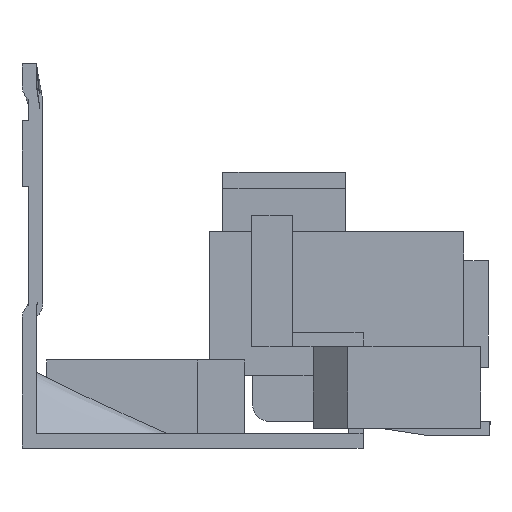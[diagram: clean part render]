
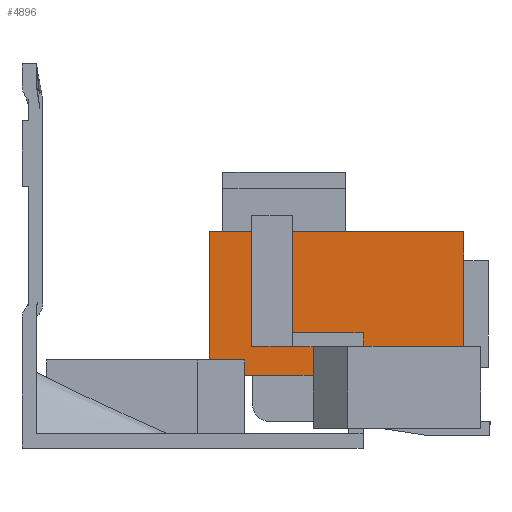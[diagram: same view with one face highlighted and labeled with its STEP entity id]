
A CAD part, front view. The second image highlights one B-rep face of the part: STEP entity #4896.
In plain terms, the highlighted planar face has unit normal (0, -1, 0).
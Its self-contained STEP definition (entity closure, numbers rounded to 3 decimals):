
#692 = FACE_OUTER_BOUND ( 'NONE', #2629, .T. ) ;
#1021 = AXIS2_PLACEMENT_3D ( 'NONE', #2270, #2271, #2272 ) ;
#1183 = CARTESIAN_POINT ( 'NONE',  ( 27.15, -20., -27.058 ) ) ;
#1184 = DIRECTION ( 'NONE',  ( 0., 0., 1. ) ) ;
#1185 = CARTESIAN_POINT ( 'NONE',  ( 49.9, -20., -25.181 ) ) ;
#1186 = DIRECTION ( 'NONE',  ( -1., 0., 0. ) ) ;
#1187 = CARTESIAN_POINT ( 'NONE',  ( 22.9, -20., -27.058 ) ) ;
#1188 = DIRECTION ( 'NONE',  ( 0., 0., 1. ) ) ;
#1189 = CARTESIAN_POINT ( 'NONE',  ( 41.6, -20., -21.831 ) ) ;
#1190 = DIRECTION ( 'NONE',  ( 1., 0., 0. ) ) ;
#1191 = CARTESIAN_POINT ( 'NONE',  ( 32., -20., -21.831 ) ) ;
#1192 = DIRECTION ( 'NONE',  ( 0., 0., 1. ) ) ;
#1193 = CARTESIAN_POINT ( 'NONE',  ( 32., -20., -23.581 ) ) ;
#1194 = DIRECTION ( 'NONE',  ( -1., 0., 0. ) ) ;
#1195 = CARTESIAN_POINT ( 'NONE',  ( 35.5, -20., -27.058 ) ) ;
#1196 = DIRECTION ( 'NONE',  ( 0., 0., -1. ) ) ;
#1197 = CARTESIAN_POINT ( 'NONE',  ( 49.9, -20., -27.058 ) ) ;
#1198 = DIRECTION ( 'NONE',  ( -1., 0., 0. ) ) ;
#1211 = CARTESIAN_POINT ( 'NONE',  ( 41.6, -20., -35.931 ) ) ;
#1212 = DIRECTION ( 'NONE',  ( 0., 0., -1. ) ) ;
#1812 = CARTESIAN_POINT ( 'NONE',  ( 32., -20., -23.581 ) ) ;
#1813 = CARTESIAN_POINT ( 'NONE',  ( 35.5, -20., -27.058 ) ) ;
#1814 = CARTESIAN_POINT ( 'NONE',  ( 27.15, -20., -27.058 ) ) ;
#1815 = CARTESIAN_POINT ( 'NONE',  ( 35.5, -20., -23.581 ) ) ;
#1824 = CARTESIAN_POINT ( 'NONE',  ( 41.6, -20., -21.831 ) ) ;
#1826 = CARTESIAN_POINT ( 'NONE',  ( 53.9, -20., -23.531 ) ) ;
#1828 = CARTESIAN_POINT ( 'NONE',  ( 41.6, -20., -23.531 ) ) ;
#1842 = CARTESIAN_POINT ( 'NONE',  ( 32., -20., -21.831 ) ) ;
#1891 = CARTESIAN_POINT ( 'NONE',  ( 53.9, -20., -9.558 ) ) ;
#1894 = CARTESIAN_POINT ( 'NONE',  ( 22.9, -20., -9.558 ) ) ;
#1906 = CARTESIAN_POINT ( 'NONE',  ( 22.9, -20., -25.181 ) ) ;
#1919 = CARTESIAN_POINT ( 'NONE',  ( 27.15, -20., -25.181 ) ) ;
#2269 = PLANE ( 'NONE',  #1021 ) ;
#2270 = CARTESIAN_POINT ( 'NONE',  ( 49.9, -20., -27.058 ) ) ;
#2271 = DIRECTION ( 'NONE',  ( 0., 1., 0. ) ) ;
#2272 = DIRECTION ( 'NONE',  ( 1., 0., 0. ) ) ;
#2419 = ORIENTED_EDGE ( 'NONE', *, *, #3859, .F. ) ;
#2420 = ORIENTED_EDGE ( 'NONE', *, *, #3860, .F. ) ;
#2421 = ORIENTED_EDGE ( 'NONE', *, *, #3652, .F. ) ;
#2422 = ORIENTED_EDGE ( 'NONE', *, *, #3641, .F. ) ;
#2423 = ORIENTED_EDGE ( 'NONE', *, *, #3634, .T. ) ;
#2424 = ORIENTED_EDGE ( 'NONE', *, *, #3872, .T. ) ;
#2425 = ORIENTED_EDGE ( 'NONE', *, *, #3861, .T. ) ;
#2426 = ORIENTED_EDGE ( 'NONE', *, *, #3862, .T. ) ;
#2427 = ORIENTED_EDGE ( 'NONE', *, *, #3863, .T. ) ;
#2428 = ORIENTED_EDGE ( 'NONE', *, *, #3864, .F. ) ;
#2429 = ORIENTED_EDGE ( 'NONE', *, *, #3865, .F. ) ;
#2629 = EDGE_LOOP ( 'NONE', ( #2429, #2428, #2427, #2426, #2425, #2424, #2423, #2422, #2421, #2420, #2419, #2986 ) ) ;
#2986 = ORIENTED_EDGE ( 'NONE', *, *, #3858, .F. ) ;
#2995 = LINE ( 'NONE', #4403, #2997 ) ;
#2997 = VECTOR ( 'NONE', #4404, 1000. ) ;
#3010 = LINE ( 'NONE', #4417, #3011 ) ;
#3011 = VECTOR ( 'NONE', #4418, 1000. ) ;
#3032 = LINE ( 'NONE', #4439, #3033 ) ;
#3033 = VECTOR ( 'NONE', #4440, 1000. ) ;
#3360 = LINE ( 'NONE', #1183, #3361 ) ;
#3361 = VECTOR ( 'NONE', #1184, 1000. ) ;
#3362 = LINE ( 'NONE', #1185, #3363 ) ;
#3363 = VECTOR ( 'NONE', #1186, 1000. ) ;
#3364 = LINE ( 'NONE', #1187, #3365 ) ;
#3365 = VECTOR ( 'NONE', #1188, 1000. ) ;
#3366 = LINE ( 'NONE', #1189, #3367 ) ;
#3367 = VECTOR ( 'NONE', #1190, 1000. ) ;
#3368 = LINE ( 'NONE', #1191, #3369 ) ;
#3369 = VECTOR ( 'NONE', #1192, 1000. ) ;
#3370 = LINE ( 'NONE', #1193, #3371 ) ;
#3371 = VECTOR ( 'NONE', #1194, 1000. ) ;
#3372 = LINE ( 'NONE', #1195, #3373 ) ;
#3373 = VECTOR ( 'NONE', #1196, 1000. ) ;
#3374 = LINE ( 'NONE', #1197, #3375 ) ;
#3375 = VECTOR ( 'NONE', #1198, 1000. ) ;
#3388 = LINE ( 'NONE', #1211, #3389 ) ;
#3389 = VECTOR ( 'NONE', #1212, 1000. ) ;
#3634 = EDGE_CURVE ( 'NONE', #4247, #4245, #2995, .T. ) ;
#3641 = EDGE_CURVE ( 'NONE', #4310, #4245, #3010, .T. ) ;
#3652 = EDGE_CURVE ( 'NONE', #4313, #4310, #3032, .T. ) ;
#3858 = EDGE_CURVE ( 'NONE', #4233, #4338, #3360, .T. ) ;
#3859 = EDGE_CURVE ( 'NONE', #4338, #4325, #3362, .T. ) ;
#3860 = EDGE_CURVE ( 'NONE', #4325, #4313, #3364, .T. ) ;
#3861 = EDGE_CURVE ( 'NONE', #4261, #4243, #3366, .T. ) ;
#3862 = EDGE_CURVE ( 'NONE', #4231, #4261, #3368, .T. ) ;
#3863 = EDGE_CURVE ( 'NONE', #4234, #4231, #3370, .T. ) ;
#3864 = EDGE_CURVE ( 'NONE', #4234, #4232, #3372, .T. ) ;
#3865 = EDGE_CURVE ( 'NONE', #4232, #4233, #3374, .T. ) ;
#3872 = EDGE_CURVE ( 'NONE', #4243, #4247, #3388, .T. ) ;
#4231 = VERTEX_POINT ( 'NONE', #1812 ) ;
#4232 = VERTEX_POINT ( 'NONE', #1813 ) ;
#4233 = VERTEX_POINT ( 'NONE', #1814 ) ;
#4234 = VERTEX_POINT ( 'NONE', #1815 ) ;
#4243 = VERTEX_POINT ( 'NONE', #1824 ) ;
#4245 = VERTEX_POINT ( 'NONE', #1826 ) ;
#4247 = VERTEX_POINT ( 'NONE', #1828 ) ;
#4261 = VERTEX_POINT ( 'NONE', #1842 ) ;
#4310 = VERTEX_POINT ( 'NONE', #1891 ) ;
#4313 = VERTEX_POINT ( 'NONE', #1894 ) ;
#4325 = VERTEX_POINT ( 'NONE', #1906 ) ;
#4338 = VERTEX_POINT ( 'NONE', #1919 ) ;
#4403 = CARTESIAN_POINT ( 'NONE',  ( 49.9, -20., -23.531 ) ) ;
#4404 = DIRECTION ( 'NONE',  ( 1., 0., 0. ) ) ;
#4417 = CARTESIAN_POINT ( 'NONE',  ( 53.9, -20., -29.558 ) ) ;
#4418 = DIRECTION ( 'NONE',  ( 0., 0., -1. ) ) ;
#4439 = CARTESIAN_POINT ( 'NONE',  ( 53.9, -20., -9.558 ) ) ;
#4440 = DIRECTION ( 'NONE',  ( 1., 0., 0. ) ) ;
#4896 = ADVANCED_FACE ( 'NONE', ( #692 ), #2269, .F. ) ;
